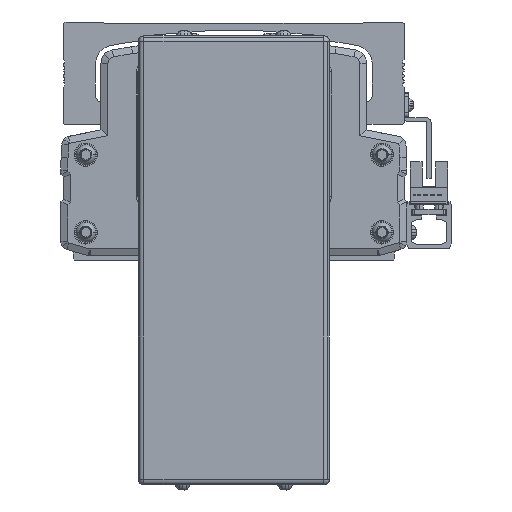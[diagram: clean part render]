
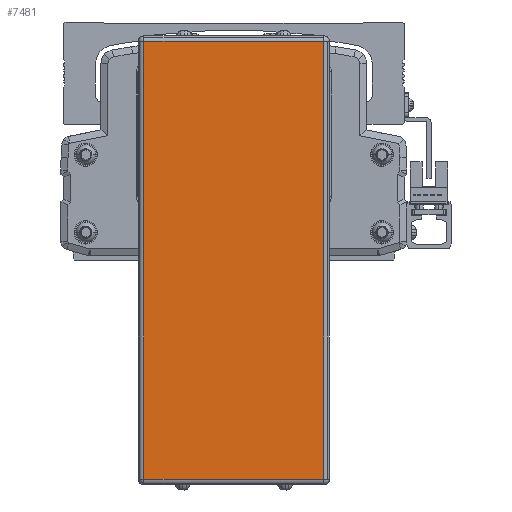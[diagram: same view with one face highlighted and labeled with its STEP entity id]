
A CAD part, front view. The second image highlights one B-rep face of the part: STEP entity #7481.
In plain terms, the highlighted planar face has unit normal (0, -1, 0).
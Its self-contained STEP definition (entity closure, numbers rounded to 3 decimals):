
#7481=ADVANCED_FACE('',(#15329),#15330,.T.);
#15329=FACE_OUTER_BOUND('',#24899,.T.);
#15330=PLANE('',#24900);
#24899=EDGE_LOOP('',(#46699,#46700,#46701,#46702));
#24900=AXIS2_PLACEMENT_3D('',#46703,#46704,#46705);
#46699=ORIENTED_EDGE('',*,*,#57882,.F.);
#46700=ORIENTED_EDGE('',*,*,#52919,.F.);
#46701=ORIENTED_EDGE('',*,*,#57988,.F.);
#46702=ORIENTED_EDGE('',*,*,#58901,.F.);
#46703=CARTESIAN_POINT('',(-299.996,-213.778,-49.1));
#46704=DIRECTION('',(0.,-1.0,0.));
#46705=DIRECTION('',(1.0,0.,0.));
#52919=EDGE_CURVE('',#64335,#64337,#64338,.T.);
#57882=EDGE_CURVE('',#64337,#64848,#71454,.T.);
#57988=EDGE_CURVE('',#71575,#64335,#71577,.T.);
#58901=EDGE_CURVE('',#64848,#71575,#72618,.T.);
#64335=VERTEX_POINT('',#80097);
#64337=VERTEX_POINT('',#80099);
#64338=LINE('',#80100,#80101);
#64848=VERTEX_POINT('',#80807);
#71454=LINE('',#90476,#90477);
#71575=VERTEX_POINT('',#90651);
#71577=LINE('',#90653,#90654);
#72618=LINE('',#92172,#92173);
#80097=CARTESIAN_POINT('',(-332.496,-213.778,30.));
#80099=CARTESIAN_POINT('',(-267.496,-213.778,30.));
#80100=CARTESIAN_POINT('',(-299.996,-213.778,30.));
#80101=VECTOR('',#96556,10.0);
#80807=CARTESIAN_POINT('',(-267.496,-213.778,-128.2));
#90476=CARTESIAN_POINT('',(-267.496,-213.778,-49.1));
#90477=VECTOR('',#102416,10.0);
#90651=CARTESIAN_POINT('',(-332.496,-213.778,-128.2));
#90653=CARTESIAN_POINT('',(-332.496,-213.778,-49.1));
#90654=VECTOR('',#102520,10.0);
#92172=CARTESIAN_POINT('',(-299.996,-213.778,-128.2));
#92173=VECTOR('',#103310,10.0);
#96556=DIRECTION('',(1.0,0.,0.));
#102416=DIRECTION('',(0.0,0.,-1.0));
#102520=DIRECTION('',(0.0,0.,1.0));
#103310=DIRECTION('',(-1.0,0.,0.));
